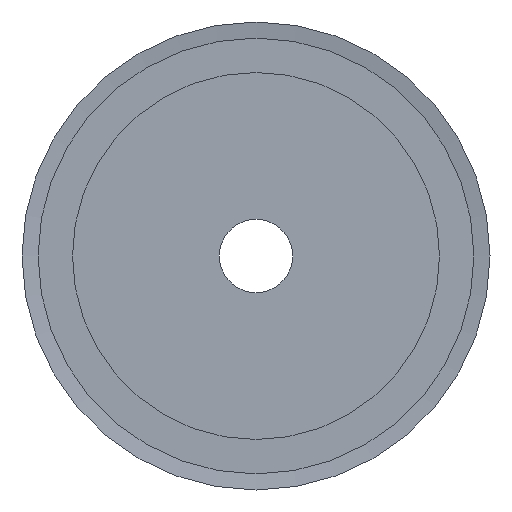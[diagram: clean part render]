
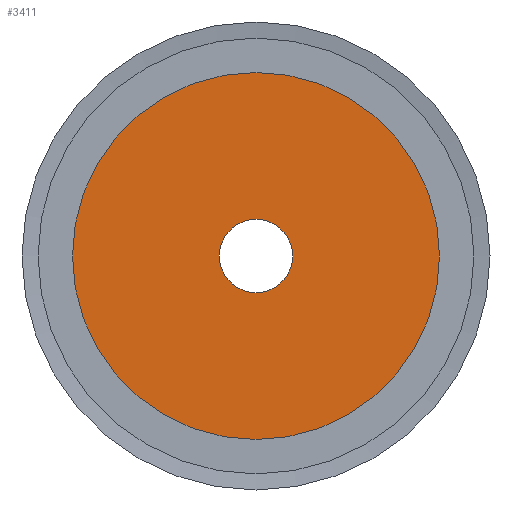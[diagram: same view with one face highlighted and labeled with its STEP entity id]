
A CAD part, left-side view. The second image highlights one B-rep face of the part: STEP entity #3411.
In plain terms, the highlighted planar face has unit normal (-1, 0, 0).
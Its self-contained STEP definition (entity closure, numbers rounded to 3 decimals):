
#24=PLANE('',#3583);
#554=ORIENTED_EDGE('',*,*,#1306,.T.);
#555=ORIENTED_EDGE('',*,*,#1304,.F.);
#1304=EDGE_CURVE('',#1680,#1680,#1908,.T.);
#1306=EDGE_CURVE('',#1682,#1682,#1910,.T.);
#1680=VERTEX_POINT('',#4788);
#1682=VERTEX_POINT('',#4793);
#1908=CIRCLE('',#3581,20.);
#1910=CIRCLE('',#3584,4.);
#2062=EDGE_LOOP('',(#554));
#2063=EDGE_LOOP('',(#555));
#2216=FACE_BOUND('',#2062,.T.);
#2217=FACE_BOUND('',#2063,.T.);
#3411=ADVANCED_FACE('',(#2216,#2217),#24,.T.);
#3581=AXIS2_PLACEMENT_3D('',#4787,#3957,#3958);
#3583=AXIS2_PLACEMENT_3D('',#4791,#3961,#3962);
#3584=AXIS2_PLACEMENT_3D('',#4792,#3963,#3964);
#3957=DIRECTION('',(1.,0.,0.));
#3958=DIRECTION('',(0.,0.,-1.));
#3961=DIRECTION('',(-1.,0.,0.));
#3962=DIRECTION('',(0.,0.,1.));
#3963=DIRECTION('',(1.,0.,0.));
#3964=DIRECTION('',(0.,0.,-1.));
#4787=CARTESIAN_POINT('',(0.,0.,0.));
#4788=CARTESIAN_POINT('',(0.,0.,-20.));
#4791=CARTESIAN_POINT('',(0.,20.,0.));
#4792=CARTESIAN_POINT('',(0.,0.,0.));
#4793=CARTESIAN_POINT('',(0.,0.,-4.));
